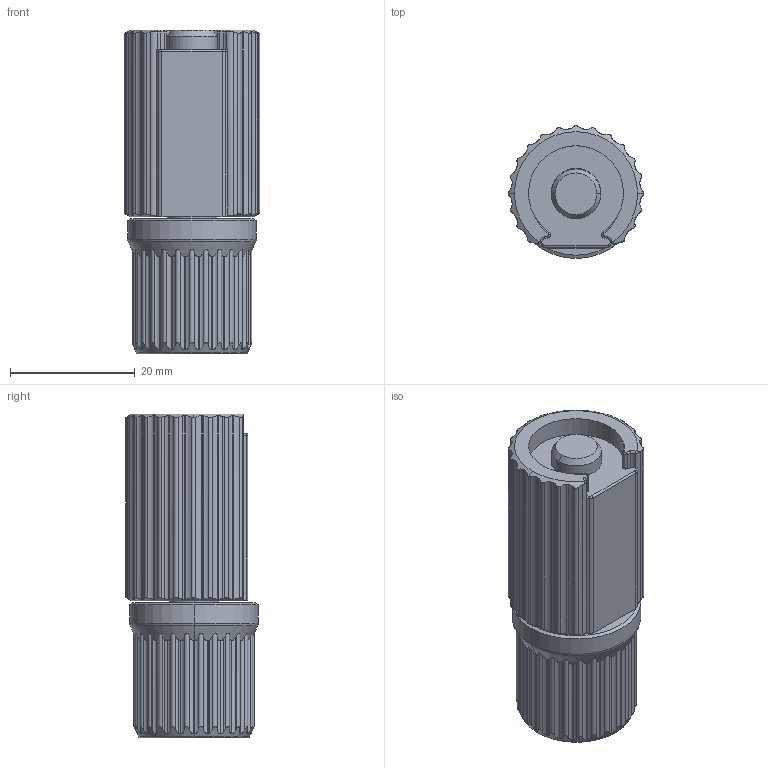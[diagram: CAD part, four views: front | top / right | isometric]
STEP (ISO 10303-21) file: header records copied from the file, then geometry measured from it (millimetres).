
FILE_DESCRIPTION (( 'STEP AP214' ), '1' );
FILE_NAME ('Reell TI-360-X.XX-02.STEP', '2019-10-16T15:45:21', ( '' ), ( '' ), 'SwSTEP 2.0', 'SolidWorks 2017', '' );
FILE_SCHEMA (( 'AUTOMOTIVE_DESIGN' ));
Length unit declared in the file: millimetre
Products named in the file (3): Reell TI-360-X.XX-01-1; Knurled Adapter; Reell TI-360-X.XX-02
Assembly tree (2 placements, depth 2):
  Reell TI-360-X.XX-02
    Knurled Adapter
    Reell TI-360-X.XX-01-1
Bounding box: 21.75 x 21.3 x 52 mm (x, y, z)
Volume: 15409.1 mm3; surface area: 7048.1 mm2
Topology: 2 solids, 2 shells, 717 faces, 1886 edges, 1181 vertices
Faces by surface type: cylinder 357, torus 144, plane 116, cone 42, bspline 38, sphere 20
Entity records: 27211 total; most frequent: CARTESIAN_POINT 10342, ORIENTED_EDGE 3772, DIRECTION 3265, EDGE_CURVE 1886, AXIS2_PLACEMENT_3D 1360, VERTEX_POINT 1181, EDGE_LOOP 727, ADVANCED_FACE 717
